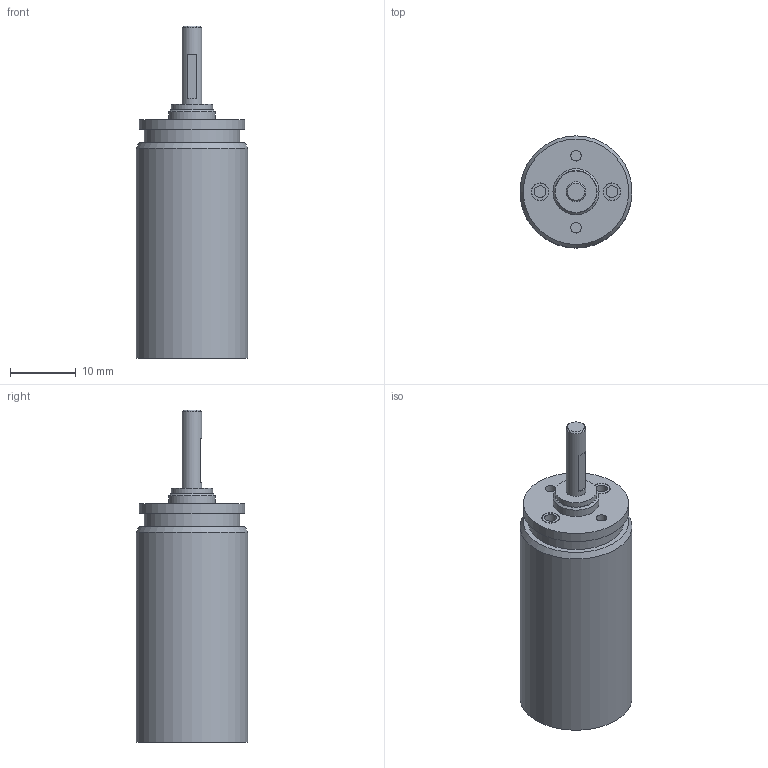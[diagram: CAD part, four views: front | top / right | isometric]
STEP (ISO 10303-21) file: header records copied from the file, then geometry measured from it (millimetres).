
FILE_DESCRIPTION(/* description */ (''),/* implementation_level */ '2;1');
FILE_NAME(/* name */ '16-8_6.stp',/* time_stamp */ '2016-08-25T11:52:34+02:00',/* author */ ('DR. FRITZ FAULHABER GmbH & Co. KG'),/* organization */ ('DR. FRITZ FAULHABER GmbH & Co. KG'),/* preprocessor_version */ 'ST-DEVELOPER v16',/* originating_system */ 'SIEMENS PLM Software NX 10.0',/* authorisation */ '');
FILE_SCHEMA (('AUTOMOTIVE_DESIGN { 1 0 10303 214 3 1 1 1 }'));
Length unit declared in the file: millimetre
Products named in the file (1): H00000540_A
Bounding box: 17 x 17 x 50.4 mm (x, y, z)
Volume: 5527.7 mm3; surface area: 3338.2 mm2
Topology: 1 solids, 1 shells, 41 faces, 65 edges, 43 vertices
Faces by surface type: plane 21, cylinder 17, cone 3
Full cylindrical faces by diameter (mm): 1.6 x2, 1.8 x2, 2.48 x1, 2.584 x2, 2.684 x2, 3 x1, 6 x1, 6.3 x1, 7 x1, 14.5 x1, 16 x2, 17 x1
Entity records: 856 total; most frequent: DIRECTION 166, CARTESIAN_POINT 126, ORIENTED_EDGE 86, AXIS2_PLACEMENT_3D 81, EDGE_LOOP 78, FACE_BOUND 69, EDGE_CURVE 43, ADVANCED_FACE 41
